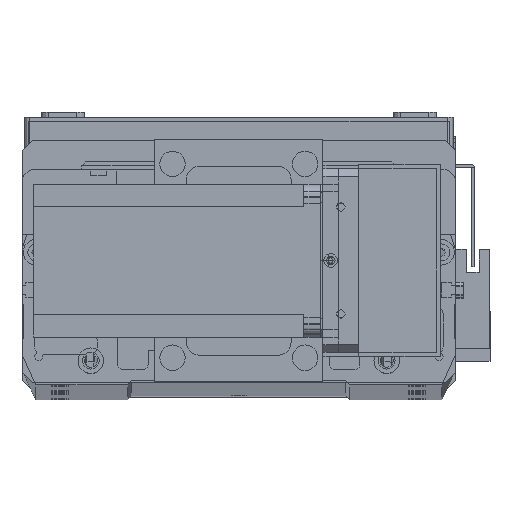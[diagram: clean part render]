
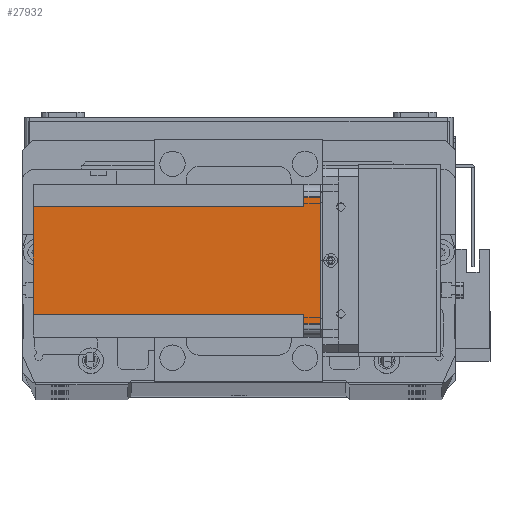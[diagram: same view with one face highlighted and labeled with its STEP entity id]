
A CAD part, top view. The second image highlights one B-rep face of the part: STEP entity #27932.
In plain terms, the highlighted planar face has unit normal (0, 0, 1) as drawn and (-1, 0, 0) by its records, which use the part's own axes.
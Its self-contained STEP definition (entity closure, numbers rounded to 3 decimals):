
#278 = ORIENTED_EDGE ( 'NONE', *, *, #27330, .T. ) ;
#409 = DIRECTION ( 'NONE',  ( 0., 0., -1. ) ) ;
#858 = CARTESIAN_POINT ( 'NONE',  ( 0., 55., -6.5 ) ) ;
#3012 = CARTESIAN_POINT ( 'NONE',  ( 0., 51., -112.5 ) ) ;
#3119 = DIRECTION ( 'NONE',  ( 0., 0., 1. ) ) ;
#3147 = VECTOR ( 'NONE', #3119, 1000. ) ;
#3476 = VERTEX_POINT ( 'NONE', #26321 ) ;
#5325 = VERTEX_POINT ( 'NONE', #26794 ) ;
#5389 = CARTESIAN_POINT ( 'NONE',  ( 0., 0., -112.5 ) ) ;
#5722 = CARTESIAN_POINT ( 'NONE',  ( 0., 55., -112.5 ) ) ;
#5956 = VECTOR ( 'NONE', #29169, 1000. ) ;
#6714 = ORIENTED_EDGE ( 'NONE', *, *, #27290, .F. ) ;
#6928 = VERTEX_POINT ( 'NONE', #25408 ) ;
#7318 = CARTESIAN_POINT ( 'NONE',  ( 0., 9., -112.5 ) ) ;
#7435 = DIRECTION ( 'NONE',  ( 0., 0., -1. ) ) ;
#7493 = LINE ( 'NONE', #27212, #21617 ) ;
#10200 = LINE ( 'NONE', #3012, #3147 ) ;
#10771 = VECTOR ( 'NONE', #26644, 1000. ) ;
#11035 = EDGE_CURVE ( 'NONE', #6928, #23044, #20445, .T. ) ;
#11051 = DIRECTION ( 'NONE',  ( -1., 0., 0. ) ) ;
#11298 = DIRECTION ( 'NONE',  ( 0., 1., 0. ) ) ;
#12187 = VERTEX_POINT ( 'NONE', #33467 ) ;
#12676 = CARTESIAN_POINT ( 'NONE',  ( 0., 9., -112.5 ) ) ;
#12894 = VECTOR ( 'NONE', #14076, 1000. ) ;
#13265 = CARTESIAN_POINT ( 'NONE',  ( 0., 60., -6.5 ) ) ;
#14076 = DIRECTION ( 'NONE',  ( 0., -1., 0. ) ) ;
#16311 = ORIENTED_EDGE ( 'NONE', *, *, #31708, .T. ) ;
#17718 = EDGE_CURVE ( 'NONE', #22712, #6928, #7493, .T. ) ;
#17840 = LINE ( 'NONE', #5389, #10771 ) ;
#19758 = VECTOR ( 'NONE', #409, 1000. ) ;
#19939 = LINE ( 'NONE', #24636, #12894 ) ;
#20445 = LINE ( 'NONE', #7318, #33782 ) ;
#20584 = LINE ( 'NONE', #5722, #19758 ) ;
#20971 = CARTESIAN_POINT ( 'NONE',  ( 0., 51., -6.5 ) ) ;
#21510 = ORIENTED_EDGE ( 'NONE', *, *, #17718, .F. ) ;
#21617 = VECTOR ( 'NONE', #11298, 1000. ) ;
#22712 = VERTEX_POINT ( 'NONE', #29678 ) ;
#23044 = VERTEX_POINT ( 'NONE', #12676 ) ;
#23859 = EDGE_CURVE ( 'NONE', #5325, #26550, #10200, .T. ) ;
#24290 = PLANE ( 'NONE',  #29023 ) ;
#24472 = FACE_OUTER_BOUND ( 'NONE', #30554, .T. ) ;
#24636 = CARTESIAN_POINT ( 'NONE',  ( 0., 0., 0. ) ) ;
#24756 = CARTESIAN_POINT ( 'NONE',  ( 0., 5., -112.5 ) ) ;
#24941 = EDGE_CURVE ( 'NONE', #26550, #34468, #26343, .T. ) ;
#25408 = CARTESIAN_POINT ( 'NONE',  ( 0., 9., -6.5 ) ) ;
#26091 = ORIENTED_EDGE ( 'NONE', *, *, #23859, .F. ) ;
#26178 = VECTOR ( 'NONE', #27463, 1000. ) ;
#26321 = CARTESIAN_POINT ( 'NONE',  ( 0., 55., 0. ) ) ;
#26343 = LINE ( 'NONE', #13265, #5956 ) ;
#26550 = VERTEX_POINT ( 'NONE', #20971 ) ;
#26644 = DIRECTION ( 'NONE',  ( 0., -1., 0. ) ) ;
#26794 = CARTESIAN_POINT ( 'NONE',  ( 0., 51., -112.5 ) ) ;
#26967 = CARTESIAN_POINT ( 'NONE',  ( 0., 0., -112.5 ) ) ;
#27212 = CARTESIAN_POINT ( 'NONE',  ( 0., 0., -6.5 ) ) ;
#27290 = EDGE_CURVE ( 'NONE', #3476, #12187, #19939, .T. ) ;
#27330 = EDGE_CURVE ( 'NONE', #22712, #12187, #34112, .T. ) ;
#27463 = DIRECTION ( 'NONE',  ( 0., 0., 1. ) ) ;
#27932 = ADVANCED_FACE ( 'NONE', ( #24472 ), #24290, .T. ) ;
#29023 = AXIS2_PLACEMENT_3D ( 'NONE', #26967, #11051, #29651 ) ;
#29169 = DIRECTION ( 'NONE',  ( 0., 1., 0. ) ) ;
#29651 = DIRECTION ( 'NONE',  ( 0., -1., 0. ) ) ;
#29678 = CARTESIAN_POINT ( 'NONE',  ( 0., 5., -6.5 ) ) ;
#29822 = ORIENTED_EDGE ( 'NONE', *, *, #24941, .F. ) ;
#30554 = EDGE_LOOP ( 'NONE', ( #21510, #278, #6714, #31767, #29822, #26091, #16311, #32049 ) ) ;
#31708 = EDGE_CURVE ( 'NONE', #5325, #23044, #17840, .T. ) ;
#31767 = ORIENTED_EDGE ( 'NONE', *, *, #33864, .T. ) ;
#32049 = ORIENTED_EDGE ( 'NONE', *, *, #11035, .F. ) ;
#33467 = CARTESIAN_POINT ( 'NONE',  ( 0., 5., 0. ) ) ;
#33782 = VECTOR ( 'NONE', #7435, 1000. ) ;
#33864 = EDGE_CURVE ( 'NONE', #3476, #34468, #20584, .T. ) ;
#34112 = LINE ( 'NONE', #24756, #26178 ) ;
#34468 = VERTEX_POINT ( 'NONE', #858 ) ;
